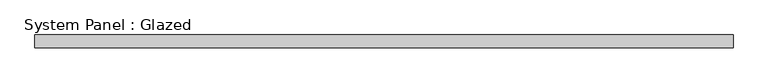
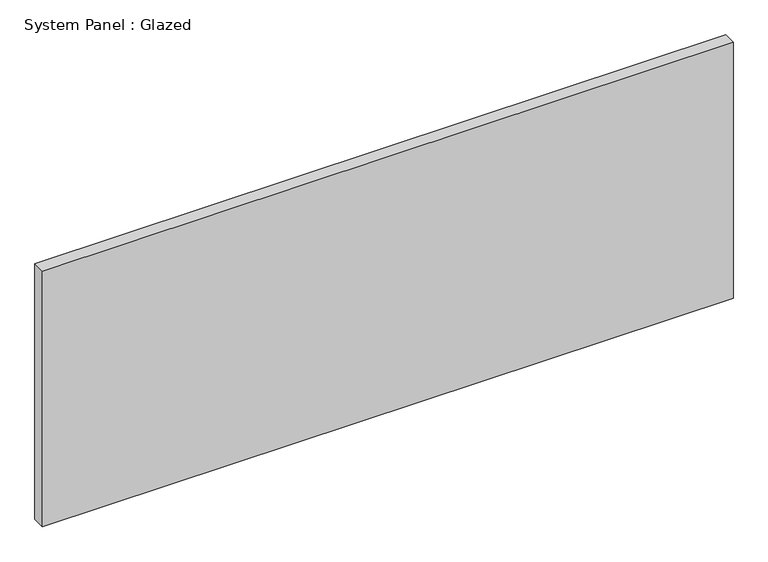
"""IFC4 building model written with IfcOpenShell, lengths in millimetres: plate geometry, System Panel : Glazed."""

import ifcopenshell
import ifcopenshell.guid

model = None  # the IFC model being written
_history = None  # IfcOwnerHistory: only IFC2X3 demands one
_inside = {}  # id of a spatial element -> (the spatial element, [elements in it])
_under = {}  # id of a project, library or spatial element -> (it, [spatial elements below it])
_declared = {}  # id of a project -> (the project, [libraries it declares])
_typed = {}  # id of a type object -> (the type object, [elements of that type])
_made_of = {}  # id of a material, layer set ... -> (it, [elements and type objects made of it])


def new_model(schema):
    """Start an empty IFC model of exactly this schema.

    Asked for "IFC4X3", IfcOpenShell would pick the latest addendum, in which some entities
    have other attributes; the version numbers below select the first issue.
    IFC2X3 requires an IfcOwnerHistory on every rooted entity: one is made here for all.
    """
    global model, _history
    if schema == "IFC4X3":
        model = ifcopenshell.file(schema_version=(4, 3, 0, 0))
    else:
        model = ifcopenshell.file(schema=schema)
    _inside.clear()
    _under.clear()
    _declared.clear()
    _typed.clear()
    _made_of.clear()
    _history = None
    if model.schema == "IFC2X3":
        org = make("IfcOrganization", Name="unknown")
        user = make(
            "IfcPersonAndOrganization",
            ThePerson=make("IfcPerson", FamilyName="unknown"),
            TheOrganization=org,
        )
        app = make(
            "IfcApplication",
            ApplicationDeveloper=org,
            Version="unknown",
            ApplicationFullName="unknown",
            ApplicationIdentifier="unknown",
        )
        _history = make(
            "IfcOwnerHistory",
            OwningUser=user,
            OwningApplication=app,
            ChangeAction="ADDED",
            CreationDate=0,
        )
    return model


def make(cls, **values):
    """One entity of the class cls with the attributes given. An attribute that is None is left unset."""
    return model.create_entity(
        cls, **{name: value for name, value in values.items() if value is not None}
    )


def rooted(cls, **values):
    """An entity with a GlobalId (a new one), such as an element, a storey or a relation."""
    return make(cls, GlobalId=ifcopenshell.guid.new(), OwnerHistory=_history, **values)


def si_unit(unit_type, name, prefix=None):
    """IfcSIUnit, for example si_unit("LENGTHUNIT", "METRE", prefix="MILLI")."""
    return make("IfcSIUnit", UnitType=unit_type, Prefix=prefix, Name=name)


def assignment(units):
    """IfcUnitAssignment: the units of a project."""
    return None if units is None else make("IfcUnitAssignment", Units=units)


def point(xyz):
    """IfcCartesianPoint."""
    return None if xyz is None else make("IfcCartesianPoint", Coordinates=xyz)


def direction(xyz):
    """IfcDirection."""
    return None if xyz is None else make("IfcDirection", DirectionRatios=xyz)


def frame(location, z_axis=None, x_axis=None):
    """IfcAxis2Placement3D, a coordinate frame: its origin and axes. An axis left out is left unset."""
    return make(
        "IfcAxis2Placement3D",
        Location=point(location),
        Axis=direction(z_axis),
        RefDirection=direction(x_axis),
    )


def origin():
    """The frame at (0, 0, 0) with its axes left unset."""
    return frame((0.0, 0.0, 0.0))


def origin_with_axes():
    """The frame at (0, 0, 0) with the z axis (0, 0, 1) and the x axis (1, 0, 0) written out."""
    return frame((0.0, 0.0, 0.0), z_axis=(0.0, 0.0, 1.0), x_axis=(1.0, 0.0, 0.0))


def place(relative_to, where):
    """IfcLocalPlacement: puts the frame where relative to a parent placement (None: the world)."""
    return make(
        "IfcLocalPlacement", PlacementRelTo=relative_to, RelativePlacement=where
    )


def context(
    kind, dimensions, precision=None, world=None, true_north=None, identifier=None
):
    """IfcGeometricRepresentationContext, for example the 3D "Model" context."""
    return make(
        "IfcGeometricRepresentationContext",
        ContextIdentifier=identifier,
        ContextType=kind,
        CoordinateSpaceDimension=dimensions,
        Precision=precision,
        WorldCoordinateSystem=world,
        TrueNorth=true_north,
    )


def project(units=None, contexts=None):
    """IfcProject with its units and contexts."""
    return rooted(
        "IfcProject",
        Name="project",
        RepresentationContexts=contexts,
        UnitsInContext=assignment(units),
    )


def spatial(cls, under=None, at=None, **own):
    """A site, building, storey or space (cls), placed at a placement, below another one or the project."""
    s = rooted(cls, ObjectPlacement=at, **own)
    if under is not None:
        _under.setdefault(under.id(), (under, []))[1].append(s)
    return s


def polyline(points):
    """IfcPolyline through the points."""
    return make("IfcPolyline", Points=[point(p) for p in points])


def outline(outer, holes=None, kind="AREA"):
    """IfcArbitraryClosedProfileDef: a profile drawn as a closed curve; with holes, ...WithVoids."""
    if holes is None:
        return make("IfcArbitraryClosedProfileDef", ProfileType=kind, OuterCurve=outer)
    return make(
        "IfcArbitraryProfileDefWithVoids",
        ProfileType=kind,
        OuterCurve=outer,
        InnerCurves=holes,
    )


def extrude(swept, where, along, depth):
    """IfcExtrudedAreaSolid: the profile swept, set in the frame where, extruded along a direction by depth."""
    return make(
        "IfcExtrudedAreaSolid",
        SweptArea=swept,
        Position=where,
        ExtrudedDirection=direction(along),
        Depth=depth,
    )


def shape(context_of_items, identifier, shape_type, items):
    """IfcShapeRepresentation: the items that make up one representation, for example the "Body"."""
    return make(
        "IfcShapeRepresentation",
        ContextOfItems=context_of_items,
        RepresentationIdentifier=identifier,
        RepresentationType=shape_type,
        Items=items,
    )


def source(mapping_origin, context_of_items, identifier, shape_type, items):
    """IfcRepresentationMap: a shape defined once, which mapped items show again and again."""
    return make(
        "IfcRepresentationMap",
        MappingOrigin=mapping_origin,
        MappedRepresentation=shape(context_of_items, identifier, shape_type, items),
    )


def transform(
    local_origin,
    x_axis=None,
    y_axis=None,
    z_axis=None,
    scale=None,
    scale2=None,
    scale3=None,
    uniform=True,
):
    """IfcCartesianTransformationOperator3D, or its non-uniform kind. x_axis, y_axis, z_axis: its Axis1, 2, 3."""
    if uniform:
        return make(
            "IfcCartesianTransformationOperator3D",
            Axis1=direction(x_axis),
            Axis2=direction(y_axis),
            LocalOrigin=point(local_origin),
            Scale=scale,
            Axis3=direction(z_axis),
        )
    return make(
        "IfcCartesianTransformationOperator3DnonUniform",
        Axis1=direction(x_axis),
        Axis2=direction(y_axis),
        LocalOrigin=point(local_origin),
        Scale=scale,
        Axis3=direction(z_axis),
        Scale2=scale2,
        Scale3=scale3,
    )


def mapped(mapping_source, mapping_target):
    """IfcMappedItem: shows the shape of a source again, moved by a transform."""
    return make(
        "IfcMappedItem", MappingSource=mapping_source, MappingTarget=mapping_target
    )


def made_of(thing, what):
    """Note that an element or type object is made of a material, layer set ...; save() writes the relation."""
    if what is not None:
        _made_of.setdefault(what.id(), (what, []))[1].append(thing)
    return thing


def element(
    cls,
    number,
    at=None,
    inside=None,
    cuts=None,
    type_object=None,
    material=None,
    context=None,
    identifier="Body",
    shape_type=None,
    held_by="IfcProductDefinitionShape",
    body=None,
    shapes=None,
    **own,
):
    """One element of the class cls, such as IfcWall. Its Tag is "e" and its number.

    at: its placement. inside: the storey or other place that contains it. cuts: it is an
    opening in that element (IfcRelVoidsElement). A single representation is given by context,
    identifier, shape_type and body (its items); several are given by shapes. held_by: the class
    of the entity that holds the representations. save() writes the other relations.
    """
    e = rooted(cls, Tag="e%d" % number, ObjectPlacement=at, **own)
    if body is not None:
        shapes = [shape(context, identifier, shape_type, body)]
    if shapes is not None:
        e.Representation = make(held_by, Representations=shapes)
    if inside is not None:
        _inside.setdefault(inside.id(), (inside, []))[1].append(e)
    if cuts is not None:
        rooted(
            "IfcRelVoidsElement", RelatingBuildingElement=cuts, RelatedOpeningElement=e
        )
    if type_object is not None:
        _typed.setdefault(type_object.id(), (type_object, []))[1].append(e)
    return made_of(e, material)


def aggregate(whole, parts):
    """IfcRelAggregates: a whole, such as a stair, and the parts it consists of."""
    return rooted("IfcRelAggregates", RelatingObject=whole, RelatedObjects=parts)


def save(model, path):
    """Write the relations noted so far, then the file.

    IfcRelAggregates (storeys below a building ...), IfcRelContainedInSpatialStructure (elements
    in a storey), IfcRelDefinesByType, IfcRelAssociatesMaterial and IfcRelDeclares: one each for
    every whole, place, type object, material and project.
    """
    for whole, parts in _under.values():
        aggregate(whole, parts)
    for where, things in _inside.values():
        rooted(
            "IfcRelContainedInSpatialStructure",
            RelatedElements=things,
            RelatingStructure=where,
        )
    for kind, things in _typed.values():
        rooted("IfcRelDefinesByType", RelatedObjects=things, RelatingType=kind)
    for what, things in _made_of.values():
        rooted("IfcRelAssociatesMaterial", RelatedObjects=things, RelatingMaterial=what)
    for by, libraries in _declared.values():
        rooted("IfcRelDeclares", RelatingContext=by, RelatedDefinitions=libraries)
    model.write(path)


def system_panel_glazed_a3cb2844(model_context):
    return source(origin(), model_context, "Body", "SweptSolid", [
        extrude(outline(polyline([(670.5484529, 24.5), (-670.5484529, 24.5), (-670.5484529, 49.5), (670.5484529, 49.5), (670.5484529, 24.5)])), origin_with_axes(), (0.0, 0.0, 1.0), 525.0),
    ])


if __name__ == "__main__":
    model = new_model("IFC4")
    model_context = context("Model", 3, world=origin())
    ifc_project = project(units=[si_unit("LENGTHUNIT", "METRE", prefix="MILLI")], contexts=[model_context])
    site = spatial("IfcSite", under=ifc_project)
    building = spatial("IfcBuilding", under=site)
    placement = place(None, origin())
    system_panel_glazed_shape = system_panel_glazed_a3cb2844(model_context)
    element("IfcPlate", 1, ObjectType="System Panel : Glazed", at=placement, inside=building, context=model_context, shape_type="MappedRepresentation", body=[
        mapped(system_panel_glazed_shape, transform((0.0, 0.0, 0.0), x_axis=(1.0, 0.0, 0.0), y_axis=(0.0, 1.0, 0.0), z_axis=(0.0, 0.0, 1.0))),
    ])
    save(model, "model.ifc")
